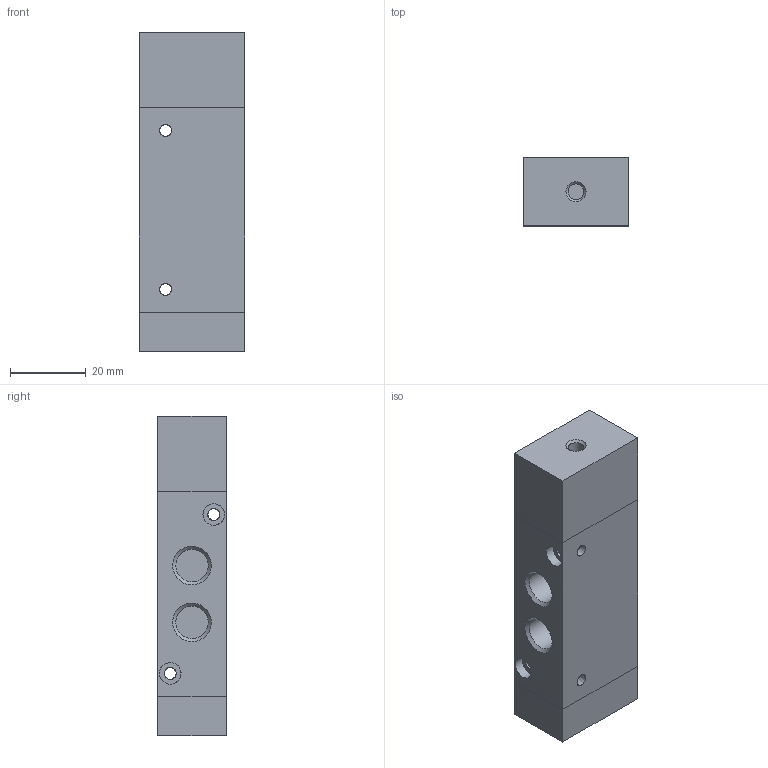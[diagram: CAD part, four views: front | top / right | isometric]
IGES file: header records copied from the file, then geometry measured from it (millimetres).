
Global section: file name: 808_52_11_1; native system: Autodesk Inventor 2017; preprocessor: unknown; organization: Pneumax S.p.A.; date: 20180116.113345; units: millimetre
Bounding box: 28 x 18 x 84.5 mm (x, y, z)
Volume: 39271.8 mm3; surface area: 10737.8 mm2
Topology: 1 solids, 1 shells, 46 faces, 122 edges, 84 vertices
Faces by surface type: bspline 46
